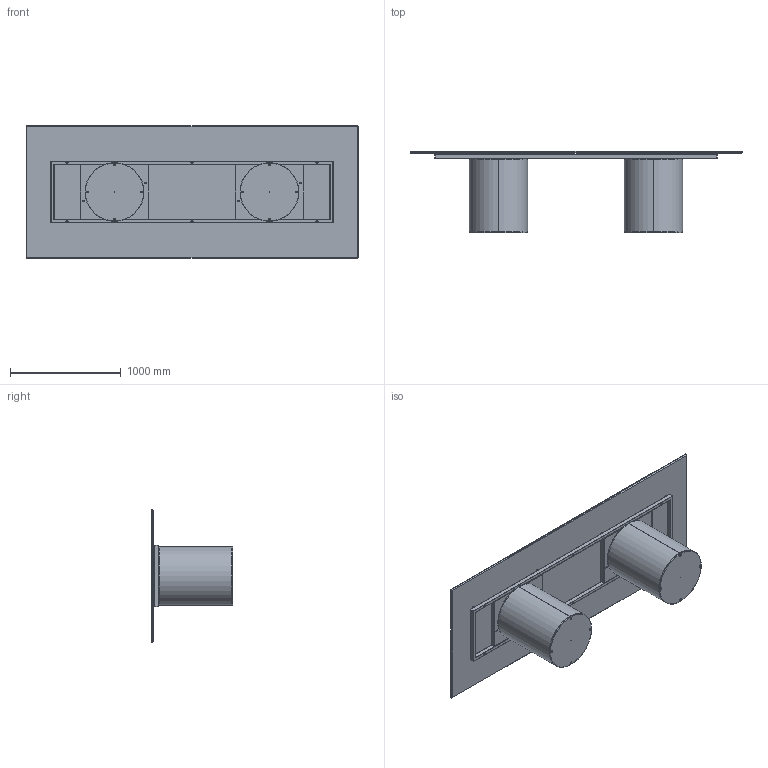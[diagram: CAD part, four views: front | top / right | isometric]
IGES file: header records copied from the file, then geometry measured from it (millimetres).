
Start section: SolidWorks IGES file using analytic representation for surfaces
Global section: file name: Y:\eforma\TECNICO\SOLIDWORKS\E-FORMA\1-TAVOLI\CILINDRO\02 parts\CI24C.IGS; native system: SolidWorks 2022; preprocessor: SolidWorks 2022; author: eforma.tech; date: 240808.090922; units: millimetre
Bounding box: 3000 x 736 x 1200 mm (x, y, z)
Volume: 72006560 mm3; surface area: 23569587.1 mm2
Topology: 39 solids, 39 shells, 988 faces, 2252 edges, 1300 vertices
Faces by surface type: revolution 532, plane 456
